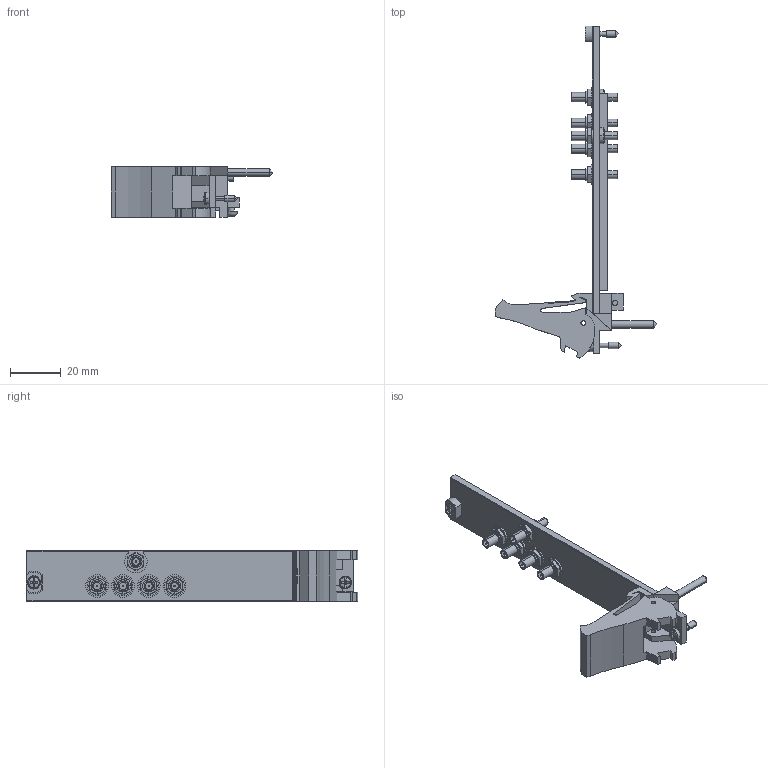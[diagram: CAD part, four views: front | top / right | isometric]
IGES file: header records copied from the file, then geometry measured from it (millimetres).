
Start section:  PTC IGES file: cu_pxi-2554.igs
Global section: file name: cu_pxi-2554.igs; native system: Pro/ENGINEER by Parametric Technology Corporation; preprocessor: 2006080; author: jjorden; organization: Unknown; date: 091006.084410; units: inch
Bounding box: 63.53 x 130.5 x 20.02 mm (x, y, z)
Surface area: 14976.1 mm2 (no closed solid volume)
Topology: 0 solids, 0 shells, 677 faces, 3596 edges, 3588 vertices
Faces by surface type: bspline 399, revolution 278
